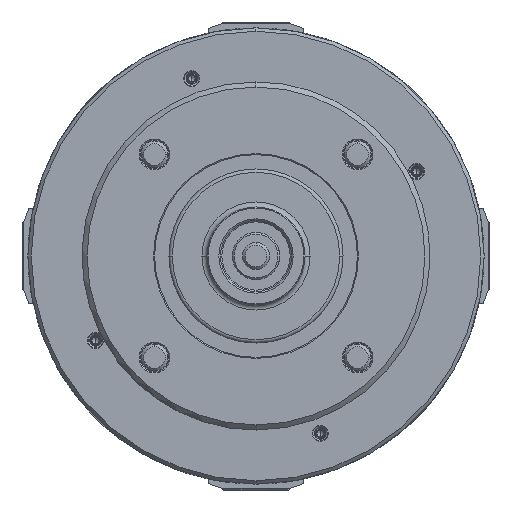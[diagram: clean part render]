
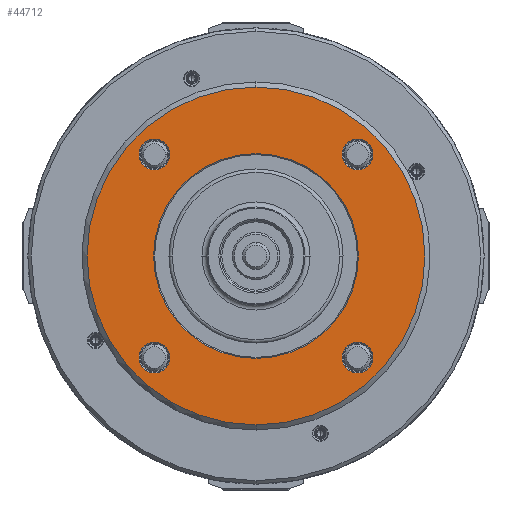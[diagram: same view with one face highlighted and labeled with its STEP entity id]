
A CAD part, left-side view. The second image highlights one B-rep face of the part: STEP entity #44712.
In plain terms, the highlighted planar face has unit normal (-1, 0, 0).
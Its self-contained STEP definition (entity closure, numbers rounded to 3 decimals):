
#345 = CARTESIAN_POINT ( 'NONE',  ( -110., -60.104, -69.204 ) ) ;
#2318 = AXIS2_PLACEMENT_3D ( 'NONE', #66500, #19426, #2549 ) ;
#2549 = DIRECTION ( 'NONE',  ( 0., 0., -1. ) ) ;
#2756 = CARTESIAN_POINT ( 'NONE',  ( -110., 0., -60.6 ) ) ;
#3036 = DIRECTION ( 'NONE',  ( 0., 0., -1. ) ) ;
#3769 = EDGE_CURVE ( 'NONE', #64501, #61029, #103282, .T. ) ;
#3888 = VERTEX_POINT ( 'NONE', #74739 ) ;
#4751 = ORIENTED_EDGE ( 'NONE', *, *, #29003, .T. ) ;
#4766 = CARTESIAN_POINT ( 'NONE',  ( -110., 60.104, -60.104 ) ) ;
#6502 = PLANE ( 'NONE',  #90910 ) ;
#6869 = EDGE_LOOP ( 'NONE', ( #13366, #63945 ) ) ;
#7826 = DIRECTION ( 'NONE',  ( 0., 0., -1. ) ) ;
#8366 = CARTESIAN_POINT ( 'NONE',  ( -110., 0., 0. ) ) ;
#8571 = EDGE_LOOP ( 'NONE', ( #8617, #61874 ) ) ;
#8617 = ORIENTED_EDGE ( 'NONE', *, *, #58189, .T. ) ;
#9532 = EDGE_CURVE ( 'NONE', #105660, #28683, #13063, .T. ) ;
#13063 = CIRCLE ( 'NONE', #57649, 9.1 ) ;
#13366 = ORIENTED_EDGE ( 'NONE', *, *, #66100, .T. ) ;
#13757 = DIRECTION ( 'NONE',  ( 0., 0., -1. ) ) ;
#14548 = AXIS2_PLACEMENT_3D ( 'NONE', #105798, #26167, #42464 ) ;
#14813 = AXIS2_PLACEMENT_3D ( 'NONE', #52230, #87747, #27789 ) ;
#15541 = CARTESIAN_POINT ( 'NONE',  ( -110., 0., 60.6 ) ) ;
#15975 = CARTESIAN_POINT ( 'NONE',  ( -110., -60.104, 60.104 ) ) ;
#16937 = FACE_BOUND ( 'NONE', #95275, .T. ) ;
#18479 = CIRCLE ( 'NONE', #66831, 9.1 ) ;
#19426 = DIRECTION ( 'NONE',  ( 1., 0., 0. ) ) ;
#19526 = ORIENTED_EDGE ( 'NONE', *, *, #82728, .T. ) ;
#20854 = EDGE_LOOP ( 'NONE', ( #19526, #55026 ) ) ;
#21318 = DIRECTION ( 'NONE',  ( 1., 0., 0. ) ) ;
#22696 = CARTESIAN_POINT ( 'NONE',  ( -110., 60.104, 51.004 ) ) ;
#23222 = CARTESIAN_POINT ( 'NONE',  ( -110., 60.104, -51.004 ) ) ;
#23416 = DIRECTION ( 'NONE',  ( 0., 0., -1. ) ) ;
#23440 = AXIS2_PLACEMENT_3D ( 'NONE', #54415, #89876, #99744 ) ;
#23988 = CARTESIAN_POINT ( 'NONE',  ( -110., 0., 0. ) ) ;
#24721 = CIRCLE ( 'NONE', #93430, 9.1 ) ;
#24874 = VERTEX_POINT ( 'NONE', #68301 ) ;
#26167 = DIRECTION ( 'NONE',  ( 1., 0., 0. ) ) ;
#26244 = EDGE_CURVE ( 'NONE', #3888, #72474, #24721, .T. ) ;
#27789 = DIRECTION ( 'NONE',  ( 0., 0., -1. ) ) ;
#28683 = VERTEX_POINT ( 'NONE', #345 ) ;
#29003 = EDGE_CURVE ( 'NONE', #61029, #64501, #88368, .T. ) ;
#33272 = CIRCLE ( 'NONE', #105607, 9.1 ) ;
#33497 = ORIENTED_EDGE ( 'NONE', *, *, #43182, .F. ) ;
#34155 = DIRECTION ( 'NONE',  ( 0., 0., -1. ) ) ;
#34412 = FACE_BOUND ( 'NONE', #6869, .T. ) ;
#34968 = DIRECTION ( 'NONE',  ( 0., 0., -1. ) ) ;
#36951 = EDGE_CURVE ( 'NONE', #73804, #62836, #100758, .T. ) ;
#37368 = VERTEX_POINT ( 'NONE', #22696 ) ;
#41664 = DIRECTION ( 'NONE',  ( 0., 0., -1. ) ) ;
#41979 = DIRECTION ( 'NONE',  ( 1., 0., 0. ) ) ;
#42464 = DIRECTION ( 'NONE',  ( 0., 0., -1. ) ) ;
#43182 = EDGE_CURVE ( 'NONE', #62836, #73804, #57213, .T. ) ;
#44112 = ORIENTED_EDGE ( 'NONE', *, *, #3769, .T. ) ;
#44712 = ADVANCED_FACE ( 'NONE', ( #87922, #112920, #34412, #114619, #69881, #16937 ), #6502, .F. ) ;
#48297 = CARTESIAN_POINT ( 'NONE',  ( -110., 0., 100. ) ) ;
#50310 = DIRECTION ( 'NONE',  ( 0., 0., -1. ) ) ;
#50852 = DIRECTION ( 'NONE',  ( 0., 0., -1. ) ) ;
#51256 = CARTESIAN_POINT ( 'NONE',  ( -110., -100., 0. ) ) ;
#51545 = CARTESIAN_POINT ( 'NONE',  ( -110., 60.104, -60.104 ) ) ;
#52230 = CARTESIAN_POINT ( 'NONE',  ( -110., 60.104, 60.104 ) ) ;
#52704 = DIRECTION ( 'NONE',  ( 1., 0., 0. ) ) ;
#54334 = AXIS2_PLACEMENT_3D ( 'NONE', #79341, #72344, #7826 ) ;
#54415 = CARTESIAN_POINT ( 'NONE',  ( -110., 0., 0. ) ) ;
#55026 = ORIENTED_EDGE ( 'NONE', *, *, #26244, .T. ) ;
#55640 = CARTESIAN_POINT ( 'NONE',  ( -110., -60.104, -60.104 ) ) ;
#56840 = ORIENTED_EDGE ( 'NONE', *, *, #9532, .T. ) ;
#57213 = CIRCLE ( 'NONE', #14548, 100. ) ;
#57649 = AXIS2_PLACEMENT_3D ( 'NONE', #70120, #77692, #41664 ) ;
#57696 = DIRECTION ( 'NONE',  ( 1., 0., 0. ) ) ;
#58189 = EDGE_CURVE ( 'NONE', #105903, #37368, #71073, .T. ) ;
#61029 = VERTEX_POINT ( 'NONE', #2756 ) ;
#61738 = AXIS2_PLACEMENT_3D ( 'NONE', #23988, #76336, #23416 ) ;
#61874 = ORIENTED_EDGE ( 'NONE', *, *, #104479, .T. ) ;
#62259 = VERTEX_POINT ( 'NONE', #105630 ) ;
#62836 = VERTEX_POINT ( 'NONE', #48297 ) ;
#63945 = ORIENTED_EDGE ( 'NONE', *, *, #98268, .T. ) ;
#64501 = VERTEX_POINT ( 'NONE', #15541 ) ;
#66100 = EDGE_CURVE ( 'NONE', #62259, #24874, #79430, .T. ) ;
#66500 = CARTESIAN_POINT ( 'NONE',  ( -110., 60.104, 60.104 ) ) ;
#66831 = AXIS2_PLACEMENT_3D ( 'NONE', #51545, #52704, #34155 ) ;
#68301 = CARTESIAN_POINT ( 'NONE',  ( -110., -60.104, 51.004 ) ) ;
#68634 = EDGE_LOOP ( 'NONE', ( #90710, #33497 ) ) ;
#69881 = FACE_OUTER_BOUND ( 'NONE', #68634, .T. ) ;
#70120 = CARTESIAN_POINT ( 'NONE',  ( -110., -60.104, -60.104 ) ) ;
#71073 = CIRCLE ( 'NONE', #2318, 9.1 ) ;
#72344 = DIRECTION ( 'NONE',  ( 1., 0., 0. ) ) ;
#72474 = VERTEX_POINT ( 'NONE', #23222 ) ;
#72951 = CIRCLE ( 'NONE', #54334, 9.1 ) ;
#73048 = CARTESIAN_POINT ( 'NONE',  ( -110., 60.104, 69.204 ) ) ;
#73804 = VERTEX_POINT ( 'NONE', #112291 ) ;
#73869 = AXIS2_PLACEMENT_3D ( 'NONE', #15975, #77078, #50310 ) ;
#74739 = CARTESIAN_POINT ( 'NONE',  ( -110., 60.104, -69.204 ) ) ;
#76336 = DIRECTION ( 'NONE',  ( 1., 0., 0. ) ) ;
#77078 = DIRECTION ( 'NONE',  ( 1., 0., 0. ) ) ;
#77692 = DIRECTION ( 'NONE',  ( 1., 0., 0. ) ) ;
#79341 = CARTESIAN_POINT ( 'NONE',  ( -110., -60.104, 60.104 ) ) ;
#79430 = CIRCLE ( 'NONE', #73869, 9.1 ) ;
#82728 = EDGE_CURVE ( 'NONE', #72474, #3888, #18479, .T. ) ;
#86559 = AXIS2_PLACEMENT_3D ( 'NONE', #8366, #96176, #50852 ) ;
#87747 = DIRECTION ( 'NONE',  ( 1., 0., 0. ) ) ;
#87922 = FACE_BOUND ( 'NONE', #20854, .T. ) ;
#88368 = CIRCLE ( 'NONE', #86559, 60.6 ) ;
#89876 = DIRECTION ( 'NONE',  ( 1., 0., 0. ) ) ;
#90710 = ORIENTED_EDGE ( 'NONE', *, *, #36951, .F. ) ;
#90910 = AXIS2_PLACEMENT_3D ( 'NONE', #51256, #41979, #34968 ) ;
#93430 = AXIS2_PLACEMENT_3D ( 'NONE', #4766, #57696, #3036 ) ;
#94402 = EDGE_LOOP ( 'NONE', ( #56840, #103135 ) ) ;
#95275 = EDGE_LOOP ( 'NONE', ( #44112, #4751 ) ) ;
#96176 = DIRECTION ( 'NONE',  ( 1., 0., 0. ) ) ;
#96569 = CIRCLE ( 'NONE', #14813, 9.1 ) ;
#98268 = EDGE_CURVE ( 'NONE', #24874, #62259, #72951, .T. ) ;
#99744 = DIRECTION ( 'NONE',  ( 0., 0., -1. ) ) ;
#100758 = CIRCLE ( 'NONE', #61738, 100. ) ;
#103135 = ORIENTED_EDGE ( 'NONE', *, *, #103836, .T. ) ;
#103282 = CIRCLE ( 'NONE', #23440, 60.6 ) ;
#103836 = EDGE_CURVE ( 'NONE', #28683, #105660, #33272, .T. ) ;
#104479 = EDGE_CURVE ( 'NONE', #37368, #105903, #96569, .T. ) ;
#105607 = AXIS2_PLACEMENT_3D ( 'NONE', #55640, #21318, #13757 ) ;
#105630 = CARTESIAN_POINT ( 'NONE',  ( -110., -60.104, 69.204 ) ) ;
#105660 = VERTEX_POINT ( 'NONE', #109895 ) ;
#105798 = CARTESIAN_POINT ( 'NONE',  ( -110., 0., 0. ) ) ;
#105903 = VERTEX_POINT ( 'NONE', #73048 ) ;
#109895 = CARTESIAN_POINT ( 'NONE',  ( -110., -60.104, -51.004 ) ) ;
#112291 = CARTESIAN_POINT ( 'NONE',  ( -110., 0., -100. ) ) ;
#112920 = FACE_BOUND ( 'NONE', #94402, .T. ) ;
#114619 = FACE_BOUND ( 'NONE', #8571, .T. ) ;
